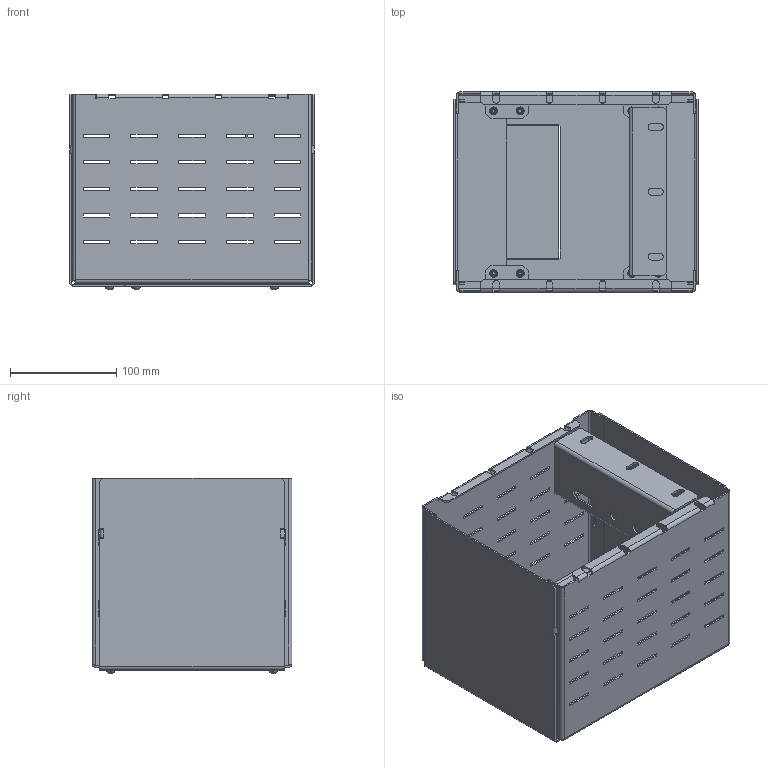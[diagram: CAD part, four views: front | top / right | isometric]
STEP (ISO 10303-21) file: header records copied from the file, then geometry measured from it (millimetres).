
FILE_DESCRIPTION(('STEP AP203'), '1');
FILE_NAME('Êîðîáêà êîììóòàöèîííàÿ çàäíÿÿ 200õ250 ìì OptiBox M 419150 ÊÝÀÇ', '', ('UNSPECIFIED'), ('UNSPECIFIED'), 'C3D Converter', 'C3D Toolkit', '');
FILE_SCHEMA(('CONFIG_CONTROL_DESIGN'));
Length unit declared in the file: millimetre
Bounding box: 230 x 188 x 183.96 mm (x, y, z)
Volume: 329955.2 mm3; surface area: 445504.2 mm2
Topology: 19 solids, 19 shells, 735 faces, 1925 edges, 1226 vertices
Faces by surface type: plane 574, cylinder 125, cone 22, bspline 8, torus 6
Full cylindrical faces by diameter (mm): 5 x14, 6 x14, 7 x8, 7.3 x8, 8.5 x6, 9 x1, 10 x8
Entity records: 28382 total; most frequent: CARTESIAN_POINT 10092, ORIENTED_EDGE 3676, DIRECTION 3480, EDGE_CURVE 1838, LINE 1532, VECTOR 1532, VERTEX_POINT 1226, EDGE_LOOP 1016
